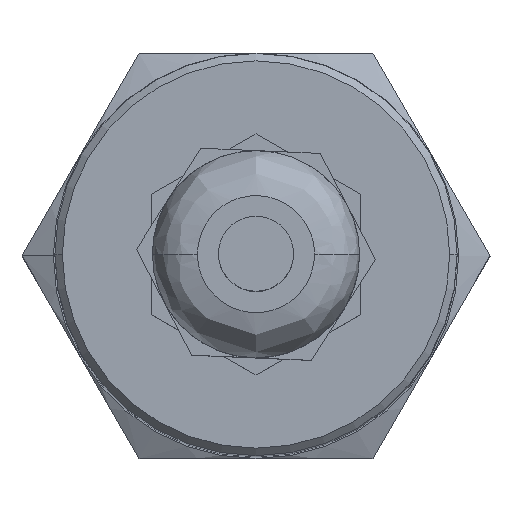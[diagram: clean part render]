
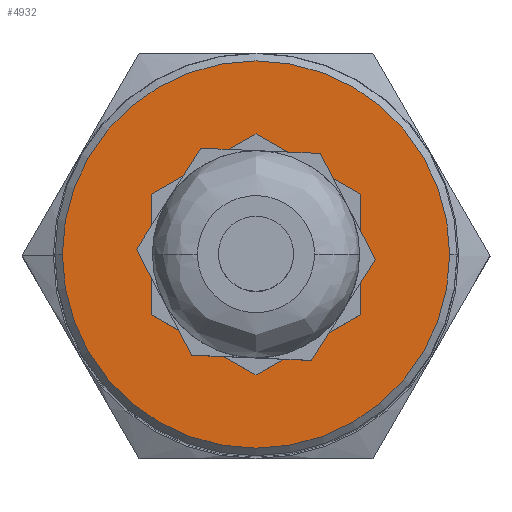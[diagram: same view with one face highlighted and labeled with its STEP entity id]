
A CAD part, top view. The second image highlights one B-rep face of the part: STEP entity #4932.
In plain terms, the highlighted planar face has unit normal (0, 0, 1).
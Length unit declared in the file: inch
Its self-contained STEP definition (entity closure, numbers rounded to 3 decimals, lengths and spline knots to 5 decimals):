
#45 = LINE ( 'NONE', #4066, #3762 ) ;
#87 = ORIENTED_EDGE ( 'NONE', *, *, #2973, .F. ) ;
#153 = ORIENTED_EDGE ( 'NONE', *, *, #5401, .F. ) ;
#241 = CIRCLE ( 'NONE', #2037, 0.50787 ) ;
#419 = AXIS2_PLACEMENT_3D ( 'NONE', #514, #494, #475 ) ;
#475 = DIRECTION ( 'NONE',  ( -1., 0., 0. ) ) ;
#494 = DIRECTION ( 'NONE',  ( 0., 0., -1. ) ) ;
#514 = CARTESIAN_POINT ( 'NONE',  ( 0., 0., 0.27559 ) ) ;
#545 = EDGE_CURVE ( 'NONE', #5199, #5859, #4517, .T. ) ;
#707 = CARTESIAN_POINT ( 'NONE',  ( -0.27362, 0., 0.27559 ) ) ;
#1063 = VERTEX_POINT ( 'NONE', #4377 ) ;
#1101 = CARTESIAN_POINT ( 'NONE',  ( 0., 0.31595, 0.27559 ) ) ;
#1134 = LINE ( 'NONE', #3991, #3554 ) ;
#1139 = FACE_BOUND ( 'NONE', #1375, .T. ) ;
#1345 = CIRCLE ( 'NONE', #419, 0.50787 ) ;
#1375 = EDGE_LOOP ( 'NONE', ( #1913, #4535, #4408, #153, #3489, #1934 ) ) ;
#1514 = CARTESIAN_POINT ( 'NONE',  ( 0., -0.31595, 0.27559 ) ) ;
#1650 = VERTEX_POINT ( 'NONE', #2245 ) ;
#1812 = CARTESIAN_POINT ( 'NONE',  ( 0.27362, -0.15798, 0.27559 ) ) ;
#1913 = ORIENTED_EDGE ( 'NONE', *, *, #6169, .F. ) ;
#1934 = ORIENTED_EDGE ( 'NONE', *, *, #545, .F. ) ;
#1953 = DIRECTION ( 'NONE',  ( -0.866, 0.5, 0. ) ) ;
#1959 = CARTESIAN_POINT ( 'NONE',  ( 0.27362, 0.15798, 0.27559 ) ) ;
#1965 = LINE ( 'NONE', #3344, #2230 ) ;
#2037 = AXIS2_PLACEMENT_3D ( 'NONE', #5974, #5955, #5935 ) ;
#2230 = VECTOR ( 'NONE', #3823, 39.37008 ) ;
#2245 = CARTESIAN_POINT ( 'NONE',  ( -0.50787, 0., 0.27559 ) ) ;
#2335 = CARTESIAN_POINT ( 'NONE',  ( 0., 0., 0.27559 ) ) ;
#2446 = VECTOR ( 'NONE', #4065, 39.37008 ) ;
#2523 = VERTEX_POINT ( 'NONE', #5952 ) ;
#2580 = LINE ( 'NONE', #707, #2446 ) ;
#2615 = EDGE_CURVE ( 'NONE', #5859, #3003, #45, .T. ) ;
#2671 = CARTESIAN_POINT ( 'NONE',  ( 0., -0.31595, 0.27559 ) ) ;
#2818 = DIRECTION ( 'NONE',  ( -1., 0., 0. ) ) ;
#2973 = EDGE_CURVE ( 'NONE', #1650, #2523, #1345, .T. ) ;
#3003 = VERTEX_POINT ( 'NONE', #5744 ) ;
#3136 = DIRECTION ( 'NONE',  ( 0.866, 0.5, 0. ) ) ;
#3331 = AXIS2_PLACEMENT_3D ( 'NONE', #2335, #5686, #2818 ) ;
#3344 = CARTESIAN_POINT ( 'NONE',  ( 0.27362, 0., 0.27559 ) ) ;
#3443 = CARTESIAN_POINT ( 'NONE',  ( 0.27362, 0.15798, 0.27559 ) ) ;
#3489 = ORIENTED_EDGE ( 'NONE', *, *, #2615, .F. ) ;
#3554 = VECTOR ( 'NONE', #5431, 39.37008 ) ;
#3689 = VERTEX_POINT ( 'NONE', #1812 ) ;
#3691 = DIRECTION ( 'NONE',  ( -0.866, -0.5, 0. ) ) ;
#3762 = VECTOR ( 'NONE', #3691, 39.37008 ) ;
#3813 = EDGE_CURVE ( 'NONE', #2523, #1650, #241, .T. ) ;
#3823 = DIRECTION ( 'NONE',  ( 0., 1., 0. ) ) ;
#3991 = CARTESIAN_POINT ( 'NONE',  ( -0.27362, -0.15798, 0.27559 ) ) ;
#4065 = DIRECTION ( 'NONE',  ( 0., -1., 0. ) ) ;
#4066 = CARTESIAN_POINT ( 'NONE',  ( 0., 0.31595, 0.27559 ) ) ;
#4302 = ORIENTED_EDGE ( 'NONE', *, *, #3813, .F. ) ;
#4377 = CARTESIAN_POINT ( 'NONE',  ( -0.27362, -0.15798, 0.27559 ) ) ;
#4408 = ORIENTED_EDGE ( 'NONE', *, *, #5297, .F. ) ;
#4517 = LINE ( 'NONE', #1959, #5641 ) ;
#4535 = ORIENTED_EDGE ( 'NONE', *, *, #6018, .F. ) ;
#4630 = PLANE ( 'NONE',  #3331 ) ;
#4636 = VECTOR ( 'NONE', #3136, 39.37008 ) ;
#4932 = ADVANCED_FACE ( 'NONE', ( #1139, #6106 ), #4630, .F. ) ;
#5027 = VERTEX_POINT ( 'NONE', #1514 ) ;
#5199 = VERTEX_POINT ( 'NONE', #3443 ) ;
#5297 = EDGE_CURVE ( 'NONE', #1063, #5027, #1134, .T. ) ;
#5401 = EDGE_CURVE ( 'NONE', #3003, #1063, #2580, .T. ) ;
#5431 = DIRECTION ( 'NONE',  ( 0.866, -0.5, 0. ) ) ;
#5486 = EDGE_LOOP ( 'NONE', ( #87, #4302 ) ) ;
#5641 = VECTOR ( 'NONE', #1953, 39.37008 ) ;
#5686 = DIRECTION ( 'NONE',  ( 0., 0., -1. ) ) ;
#5744 = CARTESIAN_POINT ( 'NONE',  ( -0.27362, 0.15798, 0.27559 ) ) ;
#5859 = VERTEX_POINT ( 'NONE', #1101 ) ;
#5905 = LINE ( 'NONE', #2671, #4636 ) ;
#5935 = DIRECTION ( 'NONE',  ( -1., 0., 0. ) ) ;
#5952 = CARTESIAN_POINT ( 'NONE',  ( 0.50787, 0., 0.27559 ) ) ;
#5955 = DIRECTION ( 'NONE',  ( 0., 0., -1. ) ) ;
#5974 = CARTESIAN_POINT ( 'NONE',  ( 0., 0., 0.27559 ) ) ;
#6018 = EDGE_CURVE ( 'NONE', #5027, #3689, #5905, .T. ) ;
#6106 = FACE_OUTER_BOUND ( 'NONE', #5486, .T. ) ;
#6169 = EDGE_CURVE ( 'NONE', #3689, #5199, #1965, .T. ) ;
